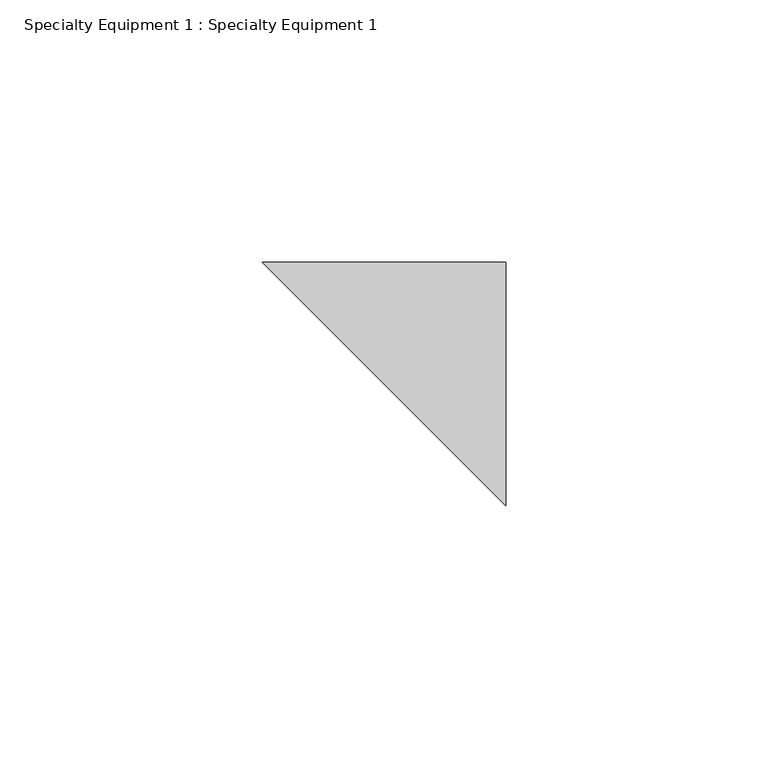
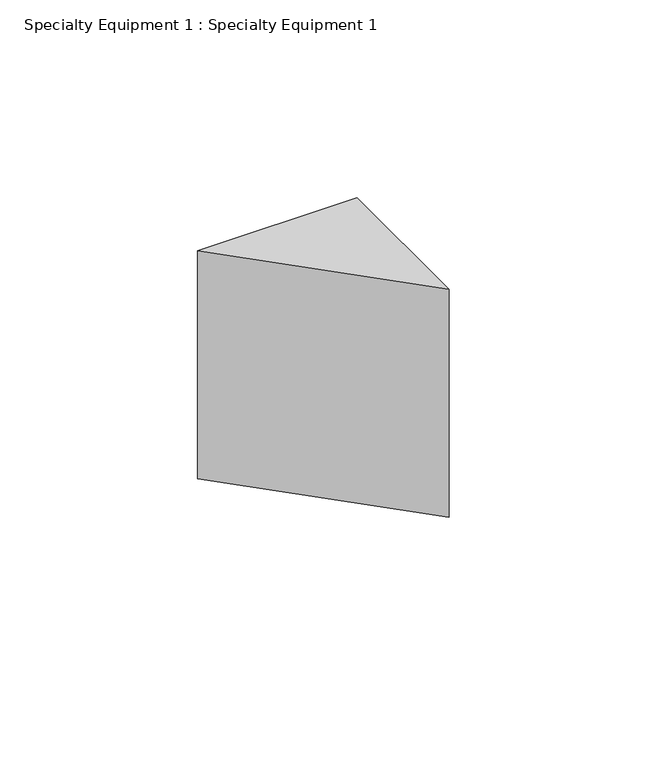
"""IFC4 building model written with IfcOpenShell, lengths in millimetres: proxy geometry, Specialty Equipment 1 : Specialty Equipment 1."""

from ifc_helpers import new_model, si_unit, frame, origin, place, context, project, spatial, polyline, outline, extrude, source, transform, mapped, element, save


def specialty_equipment_1_specialty_equipment_1_22bf80cc(model_context):
    return source(origin(), model_context, "Body", "SweptSolid", [
        extrude(outline(polyline([(10706.1, 8458.2), (10706.1, 8411.7402828), (10659.6402828, 8458.2), (10706.1, 8458.2)])), frame((0.0, 0.0, 5461.197364), z_axis=(0.0, 0.0, 1.0), x_axis=(1.0, 0.0, 0.0)), (0.0, 0.0, 1.0), 70.2479485),
    ])


if __name__ == "__main__":
    model = new_model("IFC4")
    model_context = context("Model", 3, world=origin())
    ifc_project = project(units=[si_unit("LENGTHUNIT", "METRE", prefix="MILLI")], contexts=[model_context])
    site = spatial("IfcSite", under=ifc_project)
    building = spatial("IfcBuilding", under=site)
    placement = place(None, origin())
    specialty_equipment_1_specialty_equipment_1_shape = specialty_equipment_1_specialty_equipment_1_22bf80cc(model_context)
    element("IfcBuildingElementProxy", 1, Name="Specialty Equipment 1 : Specialty Equipment 1", ObjectType="Specialty Equipment 1 : Specialty Equipment 1", at=placement, inside=building, context=model_context, shape_type="MappedRepresentation", body=[
        mapped(specialty_equipment_1_specialty_equipment_1_shape, transform((0.0, 0.0, 0.0), x_axis=(1.0, 0.0, 0.0), y_axis=(0.0, 1.0, 0.0), z_axis=(0.0, 0.0, 1.0))),
    ])
    save(model, "model.ifc")
